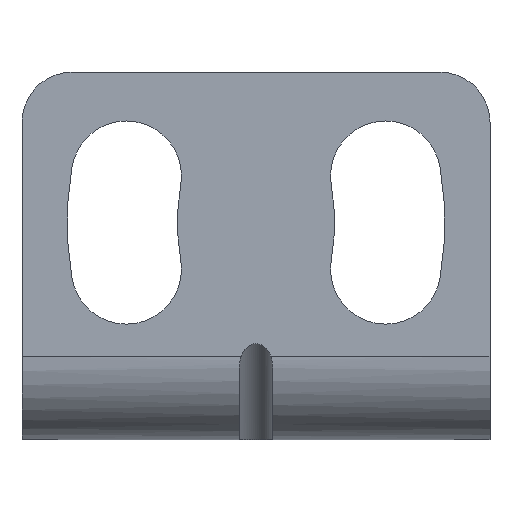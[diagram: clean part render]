
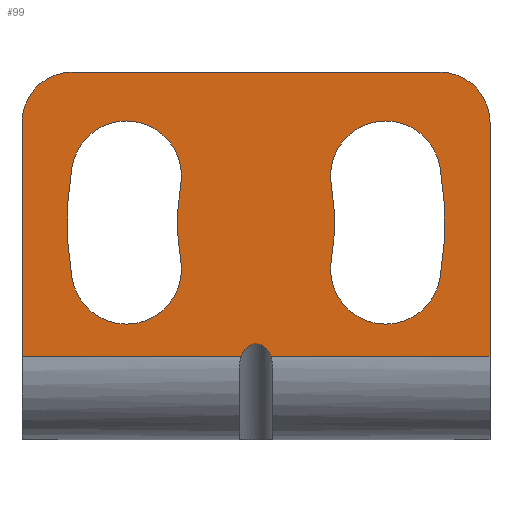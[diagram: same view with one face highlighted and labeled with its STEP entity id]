
A CAD part, front view. The second image highlights one B-rep face of the part: STEP entity #99.
In plain terms, the highlighted planar face has unit normal (0, -1, 0).
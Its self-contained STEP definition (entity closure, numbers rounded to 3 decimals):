
#99 = ADVANCED_FACE( '', ( #174, #175, #176 ), #177, .F. );
#174 = FACE_OUTER_BOUND( '', #270, .T. );
#175 = FACE_BOUND( '', #271, .T. );
#176 = FACE_BOUND( '', #272, .T. );
#177 = PLANE( '', #273 );
#270 = EDGE_LOOP( '', ( #536, #537, #538, #539, #540, #541, #542, #543 ) );
#271 = EDGE_LOOP( '', ( #544, #545, #546, #547 ) );
#272 = EDGE_LOOP( '', ( #548, #549, #550, #551 ) );
#273 = AXIS2_PLACEMENT_3D( '', #552, #553, #554 );
#536 = ORIENTED_EDGE( '', *, *, #703, .F. );
#537 = ORIENTED_EDGE( '', *, *, #793, .F. );
#538 = ORIENTED_EDGE( '', *, *, #794, .F. );
#539 = ORIENTED_EDGE( '', *, *, #795, .F. );
#540 = ORIENTED_EDGE( '', *, *, #796, .F. );
#541 = ORIENTED_EDGE( '', *, *, #797, .F. );
#542 = ORIENTED_EDGE( '', *, *, #712, .F. );
#543 = ORIENTED_EDGE( '', *, *, #798, .F. );
#544 = ORIENTED_EDGE( '', *, *, #773, .T. );
#545 = ORIENTED_EDGE( '', *, *, #799, .T. );
#546 = ORIENTED_EDGE( '', *, *, #800, .T. );
#547 = ORIENTED_EDGE( '', *, *, #801, .F. );
#548 = ORIENTED_EDGE( '', *, *, #802, .T. );
#549 = ORIENTED_EDGE( '', *, *, #803, .T. );
#550 = ORIENTED_EDGE( '', *, *, #804, .T. );
#551 = ORIENTED_EDGE( '', *, *, #805, .F. );
#552 = CARTESIAN_POINT( '', ( -5.5, 0., 9.5 ) );
#553 = DIRECTION( '', ( 0., 1., 0. ) );
#554 = DIRECTION( '', ( 0., 0., 1. ) );
#703 = EDGE_CURVE( '', #835, #822, #837, .F. );
#712 = EDGE_CURVE( '', #851, #853, #854, .T. );
#773 = EDGE_CURVE( '', #951, #955, #957, .T. );
#793 = EDGE_CURVE( '', #993, #835, #994, .T. );
#794 = EDGE_CURVE( '', #995, #993, #996, .T. );
#795 = EDGE_CURVE( '', #997, #995, #998, .T. );
#796 = EDGE_CURVE( '', #999, #997, #1000, .T. );
#797 = EDGE_CURVE( '', #853, #999, #1001, .T. );
#798 = EDGE_CURVE( '', #822, #851, #1002, .T. );
#799 = EDGE_CURVE( '', #955, #1003, #1004, .T. );
#800 = EDGE_CURVE( '', #1003, #1005, #1006, .T. );
#801 = EDGE_CURVE( '', #951, #1005, #1007, .T. );
#802 = EDGE_CURVE( '', #1008, #1009, #1010, .T. );
#803 = EDGE_CURVE( '', #1009, #1011, #1012, .T. );
#804 = EDGE_CURVE( '', #1011, #1013, #1014, .T. );
#805 = EDGE_CURVE( '', #1008, #1013, #1015, .T. );
#822 = VERTEX_POINT( '', #1032 );
#835 = VERTEX_POINT( '', #1056 );
#837 = ELLIPSE( '', #1061, 0.707, 0.5 );
#851 = VERTEX_POINT( '', #1078 );
#853 = VERTEX_POINT( '', #1080 );
#854 = LINE( '', #1081, #1082 );
#951 = VERTEX_POINT( '', #1219 );
#955 = VERTEX_POINT( '', #1224 );
#957 = CIRCLE( '', #1227, 1.65 );
#993 = VERTEX_POINT( '', #1270 );
#994 = LINE( '', #1271, #1272 );
#995 = VERTEX_POINT( '', #1273 );
#996 = LINE( '', #1274, #1275 );
#997 = VERTEX_POINT( '', #1276 );
#998 = CIRCLE( '', #1277, 1.5 );
#999 = VERTEX_POINT( '', #1278 );
#1000 = LINE( '', #1279, #1280 );
#1001 = CIRCLE( '', #1281, 1.5 );
#1002 = LINE( '', #1282, #1283 );
#1003 = VERTEX_POINT( '', #1284 );
#1004 = CIRCLE( '', #1285, 9.65 );
#1005 = VERTEX_POINT( '', #1286 );
#1006 = CIRCLE( '', #1287, 1.65 );
#1007 = CIRCLE( '', #1288, 6.35 );
#1008 = VERTEX_POINT( '', #1289 );
#1009 = VERTEX_POINT( '', #1290 );
#1010 = CIRCLE( '', #1291, 1.65 );
#1011 = VERTEX_POINT( '', #1292 );
#1012 = CIRCLE( '', #1293, 9.65 );
#1013 = VERTEX_POINT( '', #1294 );
#1014 = CIRCLE( '', #1295, 1.65 );
#1015 = CIRCLE( '', #1296, 6.35 );
#1032 = CARTESIAN_POINT( '', ( -0.443, 0., 2.5 ) );
#1056 = CARTESIAN_POINT( '', ( 0.443, 0., 2.5 ) );
#1061 = AXIS2_PLACEMENT_3D( '', #1331, #1332, #1333 );
#1078 = CARTESIAN_POINT( '', ( -7., 0., 2.5 ) );
#1080 = CARTESIAN_POINT( '', ( -7., 0., 9.5 ) );
#1081 = CARTESIAN_POINT( '', ( -7., 0., 0. ) );
#1082 = VECTOR( '', #1352, 1000. );
#1219 = CARTESIAN_POINT( '', ( 2.254, 0., 7.603 ) );
#1224 = CARTESIAN_POINT( '', ( 5.503, 0., 8.176 ) );
#1227 = AXIS2_PLACEMENT_3D( '', #1449, #1450, #1451 );
#1270 = CARTESIAN_POINT( '', ( 7., 0., 2.5 ) );
#1271 = CARTESIAN_POINT( '', ( 7.5, 0., 2.5 ) );
#1272 = VECTOR( '', #1495, 1000. );
#1273 = CARTESIAN_POINT( '', ( 7., 0., 9.5 ) );
#1274 = CARTESIAN_POINT( '', ( 7., 0., 9.5 ) );
#1275 = VECTOR( '', #1496, 1000. );
#1276 = CARTESIAN_POINT( '', ( 5.5, 0., 11. ) );
#1277 = AXIS2_PLACEMENT_3D( '', #1497, #1498, #1499 );
#1278 = CARTESIAN_POINT( '', ( -5.5, 0., 11. ) );
#1279 = CARTESIAN_POINT( '', ( -5.5, 0., 11. ) );
#1280 = VECTOR( '', #1500, 1000. );
#1281 = AXIS2_PLACEMENT_3D( '', #1501, #1502, #1503 );
#1282 = CARTESIAN_POINT( '', ( 7.5, 0., 2.5 ) );
#1283 = VECTOR( '', #1504, 1000. );
#1284 = CARTESIAN_POINT( '', ( 5.503, 0., 4.824 ) );
#1285 = AXIS2_PLACEMENT_3D( '', #1505, #1506, #1507 );
#1286 = CARTESIAN_POINT( '', ( 2.254, 0., 5.397 ) );
#1287 = AXIS2_PLACEMENT_3D( '', #1508, #1509, #1510 );
#1288 = AXIS2_PLACEMENT_3D( '', #1511, #1512, #1513 );
#1289 = CARTESIAN_POINT( '', ( -2.254, 0., 5.397 ) );
#1290 = CARTESIAN_POINT( '', ( -5.503, 0., 4.824 ) );
#1291 = AXIS2_PLACEMENT_3D( '', #1514, #1515, #1516 );
#1292 = CARTESIAN_POINT( '', ( -5.503, 0., 8.176 ) );
#1293 = AXIS2_PLACEMENT_3D( '', #1517, #1518, #1519 );
#1294 = CARTESIAN_POINT( '', ( -2.254, 0., 7.603 ) );
#1295 = AXIS2_PLACEMENT_3D( '', #1520, #1521, #1522 );
#1296 = AXIS2_PLACEMENT_3D( '', #1523, #1524, #1525 );
#1331 = CARTESIAN_POINT( '', ( 0., 0., 2.172 ) );
#1332 = DIRECTION( '', ( 0., 1., 0. ) );
#1333 = DIRECTION( '', ( 0., 0., -1. ) );
#1352 = DIRECTION( '', ( 0., 0., 1. ) );
#1449 = CARTESIAN_POINT( '', ( 3.878, 0., 7.889 ) );
#1450 = DIRECTION( '', ( 0., 1., 0. ) );
#1451 = DIRECTION( '', ( 1., 0., 0. ) );
#1495 = DIRECTION( '', ( -1., 0., 0. ) );
#1496 = DIRECTION( '', ( 0., 0., -1. ) );
#1497 = CARTESIAN_POINT( '', ( 5.5, 0., 9.5 ) );
#1498 = DIRECTION( '', ( 0., 1., 0. ) );
#1499 = DIRECTION( '', ( 1., 0., 0. ) );
#1500 = DIRECTION( '', ( 1., 0., 0. ) );
#1501 = CARTESIAN_POINT( '', ( -5.5, 0., 9.5 ) );
#1502 = DIRECTION( '', ( 0., 1., 0. ) );
#1503 = DIRECTION( '', ( 1., 0., 0. ) );
#1504 = DIRECTION( '', ( -1., 0., 0. ) );
#1505 = CARTESIAN_POINT( '', ( -4., 0., 6.5 ) );
#1506 = DIRECTION( '', ( 0., 1., 0. ) );
#1507 = DIRECTION( '', ( 1., 0., 0. ) );
#1508 = CARTESIAN_POINT( '', ( 3.878, 0., 5.111 ) );
#1509 = DIRECTION( '', ( 0., 1., 0. ) );
#1510 = DIRECTION( '', ( 1., 0., 0. ) );
#1511 = CARTESIAN_POINT( '', ( -4., 0., 6.5 ) );
#1512 = DIRECTION( '', ( 0., 1., 0. ) );
#1513 = DIRECTION( '', ( 1., 0., 0. ) );
#1514 = CARTESIAN_POINT( '', ( -3.878, 0., 5.111 ) );
#1515 = DIRECTION( '', ( 0., 1., 0. ) );
#1516 = DIRECTION( '', ( 1., 0., 0. ) );
#1517 = CARTESIAN_POINT( '', ( 4., 0., 6.5 ) );
#1518 = DIRECTION( '', ( 0., 1., 0. ) );
#1519 = DIRECTION( '', ( 1., 0., 0. ) );
#1520 = CARTESIAN_POINT( '', ( -3.878, 0., 7.889 ) );
#1521 = DIRECTION( '', ( 0., 1., 0. ) );
#1522 = DIRECTION( '', ( 1., 0., 0. ) );
#1523 = CARTESIAN_POINT( '', ( 4., 0., 6.5 ) );
#1524 = DIRECTION( '', ( 0., 1., 0. ) );
#1525 = DIRECTION( '', ( 1., 0., 0. ) );
